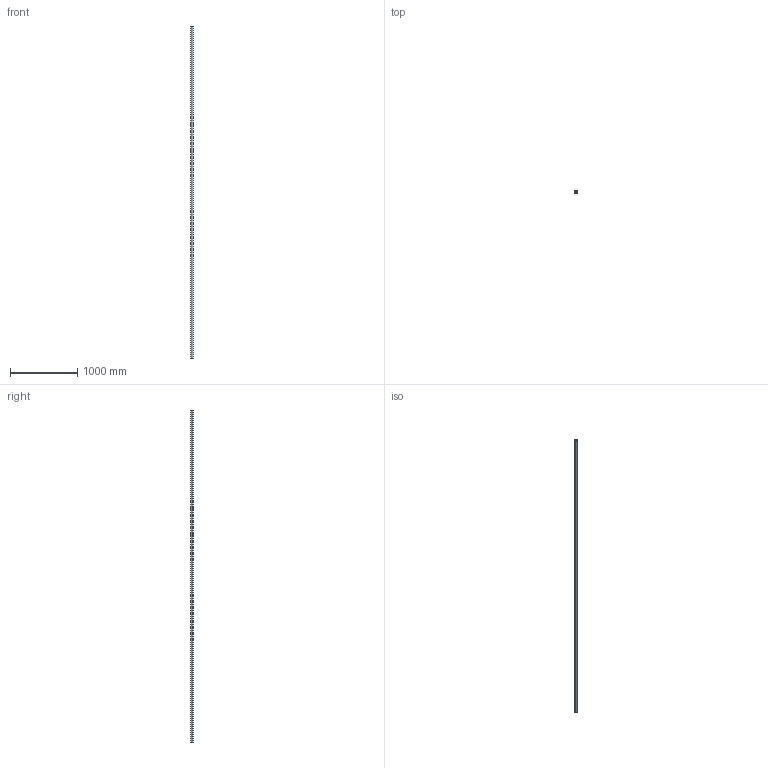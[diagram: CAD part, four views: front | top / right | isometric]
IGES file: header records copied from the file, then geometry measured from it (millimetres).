
Start section: SolidWorks IGES file using analytic representation for surfaces
Global section: file name: C:\Users\IanO\Desktop\L1771_v2\L1771.40_v2\L1771.40_v2_20230705_IGES\L1771.40-4950.igs; native system: SolidWorks 2019; preprocessor: SolidWorks 2019; author: IanO; date: 230705.162833; units: millimetre
Bounding box: 40 x 40 x 4950 mm (x, y, z)
Surface area: 1058741.9 mm2 (no closed solid volume)
Topology: 0 solids, 0 shells, 6 faces, 272 edges, 272 vertices
Faces by surface type: revolution 4, bspline 2
